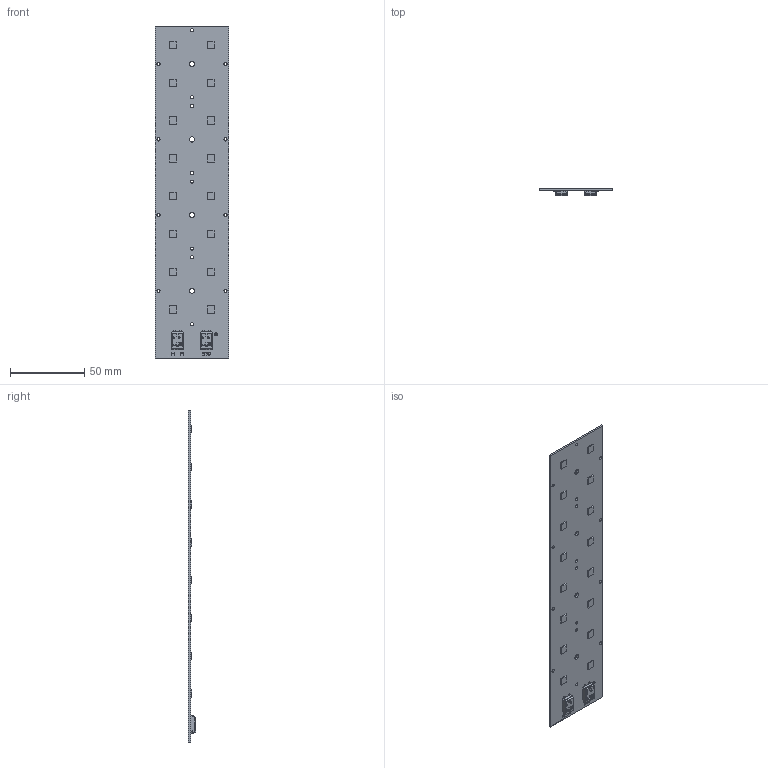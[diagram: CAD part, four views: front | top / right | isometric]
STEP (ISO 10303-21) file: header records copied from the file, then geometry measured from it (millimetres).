
FILE_DESCRIPTION(/* description */ ('Unknown'),/* implementation_level */ '2;1');
FILE_NAME(/* name */ 'RecLED 224x50mm 3800lm 2x8 5050 sh-000 2024-01-22',/* time_stamp */ '2024-01-22T08:47:47+01:00',/* author */ ('Unknown'),/* organization */ ('Unknown'),/* preprocessor_version */ 'ST-DEVELOPER v18.102',/* originating_system */ 'Solid Edge',/* authorisation */ 'Unknown');
FILE_SCHEMA (('AUTOMOTIVE_DESIGN {1 0 10303 214 3 1 1}'));
Length unit declared in the file: millimetre
Products named in the file (1): RecLED 224x50mm 3800lm 2x8 5050 sh-000 2024-01-22
Bounding box: 49.5 x 4.95 x 223 mm (x, y, z)
Volume: 17193.9 mm3; surface area: 23863.3 mm2
Topology: 1 solids, 1 shells, 1023 faces, 2665 edges, 1668 vertices
Faces by surface type: plane 495, cylinder 267, torus 104, cone 88, bspline 49, sphere 20
Full cylindrical faces by diameter (mm): 2.1 x16, 3.5 x4
Entity records: 39625 total; most frequent: CARTESIAN_POINT 9276, ORIENTED_EDGE 5174, DIRECTION 4118, EDGE_CURVE 2587, VERTEX_POINT 1638, AXIS2_PLACEMENT_3D 1393, LINE 1332, VECTOR 1332
